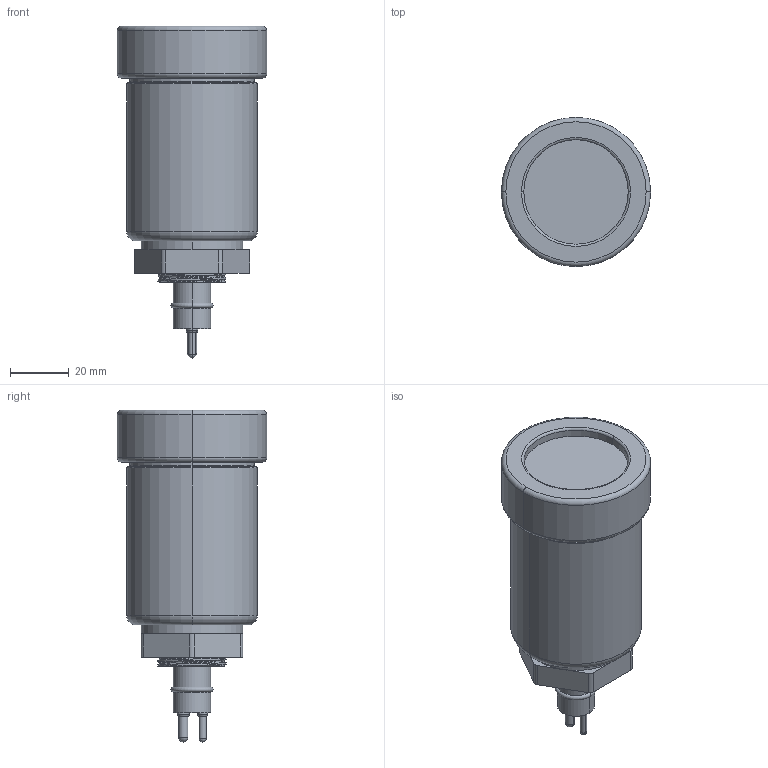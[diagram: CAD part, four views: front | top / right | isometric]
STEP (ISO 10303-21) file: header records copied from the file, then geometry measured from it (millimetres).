
FILE_DESCRIPTION (( 'STEP AP214' ), '1' );
FILE_NAME ('UWL-300_Website.STEP', '2023-08-04T19:24:58', ( '' ), ( '' ), 'SwSTEP 2.0', 'SolidWorks 2020', '' );
FILE_SCHEMA (( 'AUTOMOTIVE_DESIGN' ));
Length unit declared in the file: inch
Products named in the file (1): UWL-300_Website
Bounding box: 50.8 x 50.8 x 113 mm (x, y, z)
Volume: 89251 mm3; surface area: 37196 mm2
Topology: 8 solids, 8 shells, 235 faces, 533 edges, 325 vertices
Faces by surface type: cylinder 113, torus 50, plane 43, bspline 13, cone 12, sphere 4
Entity records: 13606 total; most frequent: CARTESIAN_POINT 5341, DIRECTION 1118, ORIENTED_EDGE 1050, EDGE_CURVE 525, AXIS2_PLACEMENT_3D 482, VERTEX_POINT 321, CIRCLE 259, EDGE_LOOP 258
